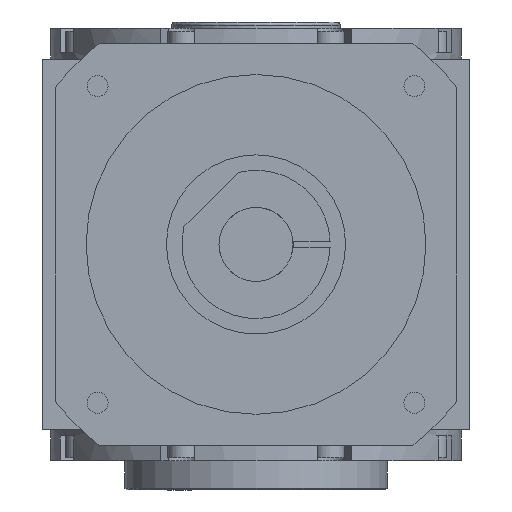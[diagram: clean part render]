
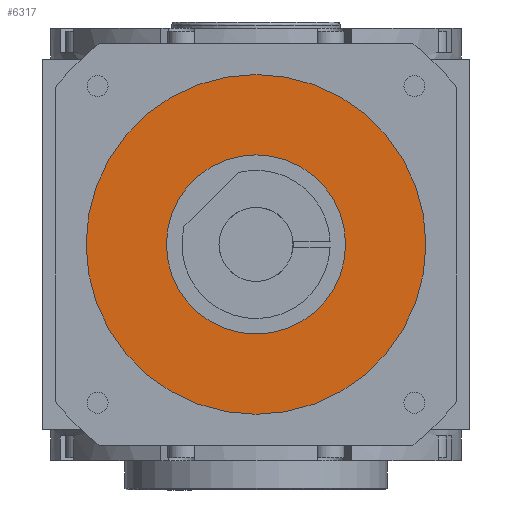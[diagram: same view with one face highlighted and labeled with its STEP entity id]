
A CAD part, front view. The second image highlights one B-rep face of the part: STEP entity #6317.
In plain terms, the highlighted planar face has unit normal (0, -1, 0) as drawn and (0, 0, -1) by its records, which use the part's own axes.
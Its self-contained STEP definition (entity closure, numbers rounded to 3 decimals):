
#125 = CIRCLE ( 'NONE', #14690, 55. ) ;
#385 = EDGE_LOOP ( 'NONE', ( #7030, #11218 ) ) ;
#709 = EDGE_CURVE ( 'NONE', #2893, #5418, #12178, .T. ) ;
#735 = VERTEX_POINT ( 'NONE', #2118 ) ;
#1232 = EDGE_LOOP ( 'NONE', ( #9869, #5279 ) ) ;
#1335 = AXIS2_PLACEMENT_3D ( 'NONE', #8048, #10892, #8885 ) ;
#1372 = VERTEX_POINT ( 'NONE', #14214 ) ;
#2118 = CARTESIAN_POINT ( 'NONE',  ( -55., 0., -151. ) ) ;
#2893 = VERTEX_POINT ( 'NONE', #17529 ) ;
#2975 = AXIS2_PLACEMENT_3D ( 'NONE', #6808, #4293, #12167 ) ;
#3107 = PLANE ( 'NONE',  #10956 ) ;
#3123 = DIRECTION ( 'NONE',  ( 0., 0., 1. ) ) ;
#4293 = DIRECTION ( 'NONE',  ( 0., 0., -1. ) ) ;
#4413 = CARTESIAN_POINT ( 'NONE',  ( 0., 0., -151. ) ) ;
#4566 = CARTESIAN_POINT ( 'NONE',  ( 0., 0., -151. ) ) ;
#5279 = ORIENTED_EDGE ( 'NONE', *, *, #16513, .T. ) ;
#5418 = VERTEX_POINT ( 'NONE', #11611 ) ;
#5649 = CARTESIAN_POINT ( 'NONE',  ( 0., 0., -151. ) ) ;
#6317 = ADVANCED_FACE ( 'NONE', ( #16711, #12599 ), #3107, .T. ) ;
#6808 = CARTESIAN_POINT ( 'NONE',  ( 0., 0., -151. ) ) ;
#7030 = ORIENTED_EDGE ( 'NONE', *, *, #15078, .T. ) ;
#7866 = CIRCLE ( 'NONE', #2975, 55. ) ;
#8048 = CARTESIAN_POINT ( 'NONE',  ( 0., 0., -151. ) ) ;
#8202 = DIRECTION ( 'NONE',  ( 0., 0., -1. ) ) ;
#8372 = EDGE_CURVE ( 'NONE', #1372, #735, #125, .T. ) ;
#8694 = DIRECTION ( 'NONE',  ( -1., 0., 0. ) ) ;
#8885 = DIRECTION ( 'NONE',  ( -1., 0., 0. ) ) ;
#9869 = ORIENTED_EDGE ( 'NONE', *, *, #709, .T. ) ;
#9899 = DIRECTION ( 'NONE',  ( -1., 0., 0. ) ) ;
#10213 = CIRCLE ( 'NONE', #1335, 29. ) ;
#10892 = DIRECTION ( 'NONE',  ( 0., 0., 1. ) ) ;
#10956 = AXIS2_PLACEMENT_3D ( 'NONE', #5649, #11096, #10999 ) ;
#10999 = DIRECTION ( 'NONE',  ( -1., 0., 0. ) ) ;
#11096 = DIRECTION ( 'NONE',  ( 0., 0., -1. ) ) ;
#11218 = ORIENTED_EDGE ( 'NONE', *, *, #8372, .T. ) ;
#11611 = CARTESIAN_POINT ( 'NONE',  ( 29., 0., -151. ) ) ;
#12167 = DIRECTION ( 'NONE',  ( -1., 0., 0. ) ) ;
#12178 = CIRCLE ( 'NONE', #14458, 29. ) ;
#12599 = FACE_BOUND ( 'NONE', #1232, .T. ) ;
#14214 = CARTESIAN_POINT ( 'NONE',  ( 55., 0., -151. ) ) ;
#14458 = AXIS2_PLACEMENT_3D ( 'NONE', #4566, #3123, #8694 ) ;
#14690 = AXIS2_PLACEMENT_3D ( 'NONE', #4413, #8202, #9899 ) ;
#15078 = EDGE_CURVE ( 'NONE', #735, #1372, #7866, .T. ) ;
#16513 = EDGE_CURVE ( 'NONE', #5418, #2893, #10213, .T. ) ;
#16711 = FACE_OUTER_BOUND ( 'NONE', #385, .T. ) ;
#17529 = CARTESIAN_POINT ( 'NONE',  ( -29., 0., -151. ) ) ;
